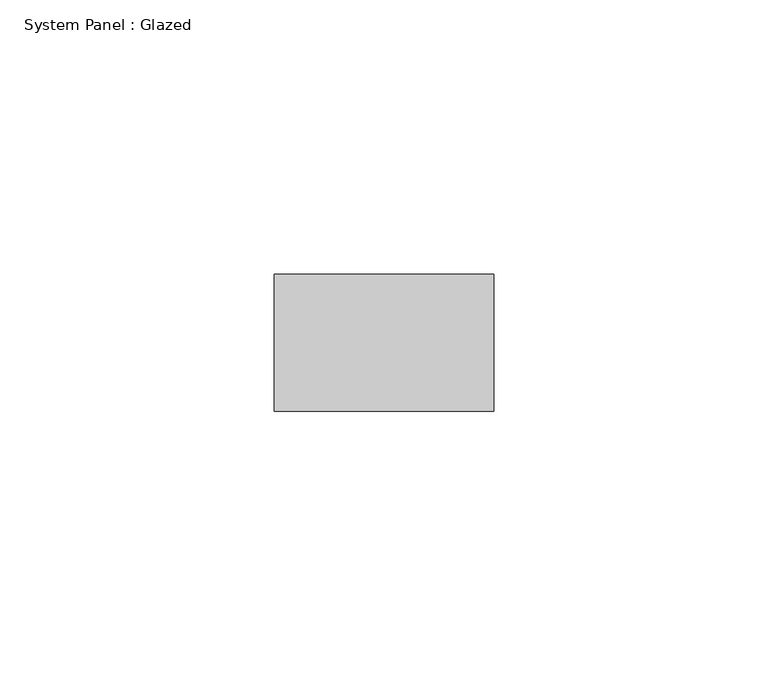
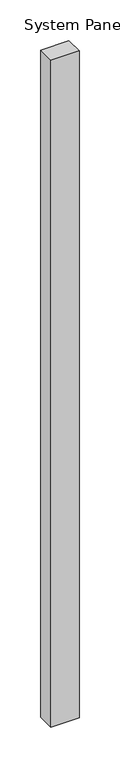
"""IFC4 building model written with IfcOpenShell, lengths in millimetres: plate geometry, System Panel : Glazed."""

from ifc_helpers import new_model, si_unit, origin, origin_with_axes, place, context, project, spatial, polyline, outline, extrude, source, transform, mapped, element, save


def system_panel_glazed_1c1d8f5b(model_context):
    return source(origin(), model_context, "Body", "SweptSolid", [
        extrude(outline(polyline([(19.9999998, 24.5), (-19.9999998, 24.5), (-19.9999998, 49.5), (19.9999998, 49.5), (19.9999998, 24.5)])), origin_with_axes(), (0.0, 0.0, 1.0), 1000.0),
    ])


if __name__ == "__main__":
    model = new_model("IFC4")
    model_context = context("Model", 3, world=origin())
    ifc_project = project(units=[si_unit("LENGTHUNIT", "METRE", prefix="MILLI")], contexts=[model_context])
    site = spatial("IfcSite", under=ifc_project)
    building = spatial("IfcBuilding", under=site)
    placement = place(None, origin())
    system_panel_glazed_shape = system_panel_glazed_1c1d8f5b(model_context)
    element("IfcPlate", 1, ObjectType="System Panel : Glazed", at=placement, inside=building, context=model_context, shape_type="MappedRepresentation", body=[
        mapped(system_panel_glazed_shape, transform((0.0, 0.0, 0.0), x_axis=(1.0, 0.0, 0.0), y_axis=(0.0, 1.0, 0.0), z_axis=(0.0, 0.0, 1.0))),
    ])
    save(model, "model.ifc")
